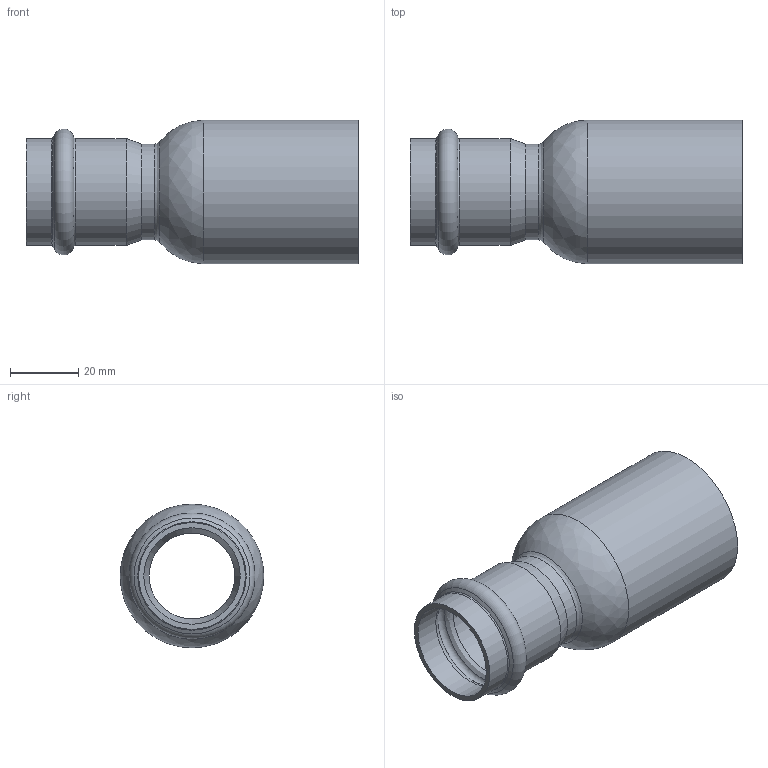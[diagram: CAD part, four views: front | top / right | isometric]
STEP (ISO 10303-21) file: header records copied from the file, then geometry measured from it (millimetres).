
FILE_DESCRIPTION((''),'2;1');
FILE_NAME('G:\Technics\CAD\Bauteile\042\692434228(1).stp','2008-03-04T14:41:04',('herberg'),(''),'Autodesk Inventor 2008','Autodesk Inventor 2008','');
FILE_SCHEMA(('AUTOMOTIVE_DESIGN { 1 0 10303 214 1 1 1 1 }'));
Length unit declared in the file: millimetre
Products named in the file (1): 692434228(1)
Bounding box: 97 x 42 x 42 mm (x, y, z)
Volume: 17034.3 mm3; surface area: 23042.2 mm2
Topology: 1 solids, 1 shells, 24 faces, 50 edges, 28 vertices
Faces by surface type: bspline 8, cylinder 8, cone 4, torus 2, plane 2
Full cylindrical faces by diameter (mm): 25 x1, 28 x1, 28.2 x2, 31.2 x2, 39 x1, 42 x1
Entity records: 798 total; most frequent: CARTESIAN_POINT 389, DIRECTION 82, ORIENTED_EDGE 48, EDGE_LOOP 48, AXIS2_PLACEMENT_3D 41, VERTEX_POINT 24, CIRCLE 24, EDGE_CURVE 24
